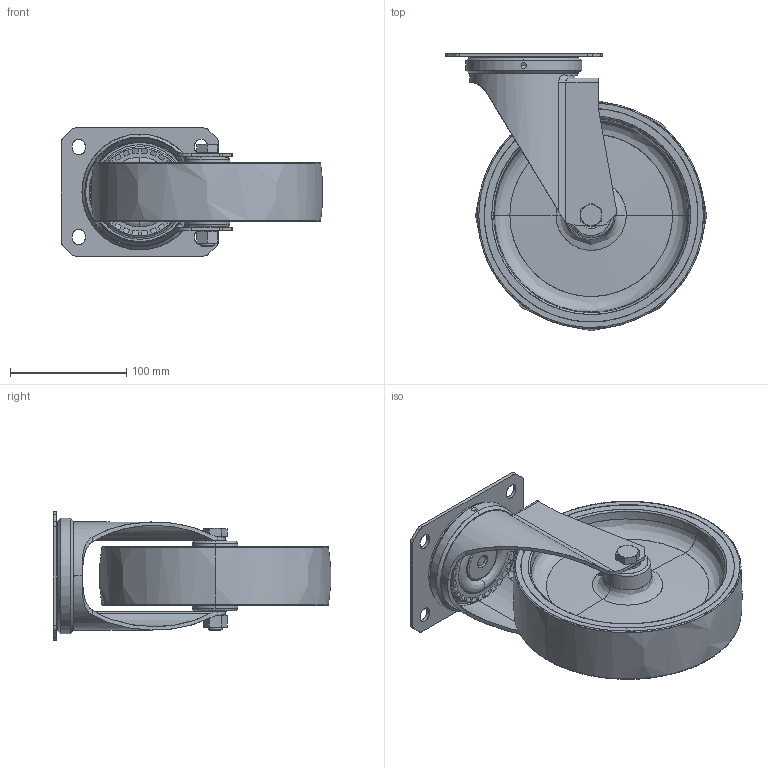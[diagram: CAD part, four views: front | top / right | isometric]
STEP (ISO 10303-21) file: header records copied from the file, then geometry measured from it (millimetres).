
FILE_DESCRIPTION(('STEP AP203'),'2;1');
FILE_NAME('21142_CL.stp','2011-07-29T12:35:36',(''),(''),'2009.3.110','THINKDESIGN','');
FILE_SCHEMA(('CONFIG_CONTROL_DESIGN'));
Length unit declared in the file: millimetre
Bounding box: 224.58 x 238.38 x 110 mm (x, y, z)
Volume: 24422.4 mm3; surface area: 256438.3 mm2
Topology: 4 solids, 4 shells, 353 faces, 2715 edges, 2657 vertices
Faces by surface type: bspline 155, plane 123, cylinder 75
Full cylindrical faces by diameter (mm): 10.106 x1, 12 x1, 12.5 x1, 16.63 x1, 18 x1, 20 x1
Entity records: 26222 total; most frequent: CARTESIAN_POINT 16553, COMPOSITE_CURVE_SEGMENT 2553, DIRECTION 1543, TRIMMED_CURVE 801, VECTOR 675, LINE 675, QUASI_UNIFORM_CURVE 536, AXIS2_PLACEMENT_3D 434
